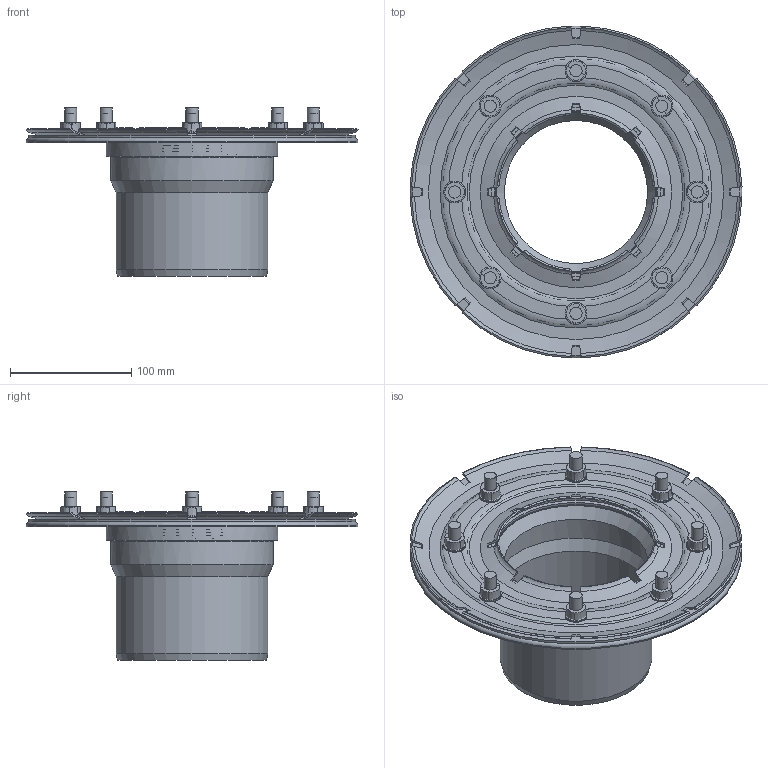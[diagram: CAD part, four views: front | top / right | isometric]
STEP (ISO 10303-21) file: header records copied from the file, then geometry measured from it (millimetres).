
FILE_DESCRIPTION(/* description */ (''),/* implementation_level */ '2;1');
FILE_NAME(/* name */ 'G:\WM_GmbH\Planerdaten\Work\EXPORT\Fertig zum Export\Bodenabl. u. Div.\stp\388102.stp',/* time_stamp */ '2017-06-27T10:29:52+02:00',/* author */ ('seihe2'),/* organization */ (''),/* preprocessor_version */ 'ST-DEVELOPER v15.2',/* originating_system */ 'Autodesk Inventor 2014',/* authorisation */ '');
FILE_SCHEMA (('AUTOMOTIVE_DESIGN { 1 0 10303 214 3 1 1 }'));
Length unit declared in the file: millimetre
Products named in the file (1): 388102
Bounding box: 273.56 x 273.56 x 138.52 mm (x, y, z)
Volume: 356300.6 mm3; surface area: 414949.1 mm2
Topology: 21 solids, 21 shells, 1494 faces, 3695 edges, 2281 vertices
Faces by surface type: cylinder 585, plane 496, cone 355, torus 43, bspline 15
Full cylindrical faces by diameter (mm): 6.8 x8, 8 x8, 9 x8, 10 x16, 12 x8, 17.9 x8, 122.6 x1, 125 x1, 131 x1, 131.5 x1, 132 x1, 133.9 x1, 134 x2, 137 x3, 138.75 x1, 140 x1, 141.15 x1, 269.4 x1, 270 x1, 273.4 x1
Entity records: 49952 total; most frequent: CARTESIAN_POINT 14506, DIRECTION 7336, ORIENTED_EDGE 6974, EDGE_CURVE 3487, AXIS2_PLACEMENT_3D 3295, VERTEX_POINT 2227, CIRCLE 1747, EDGE_LOOP 1744
